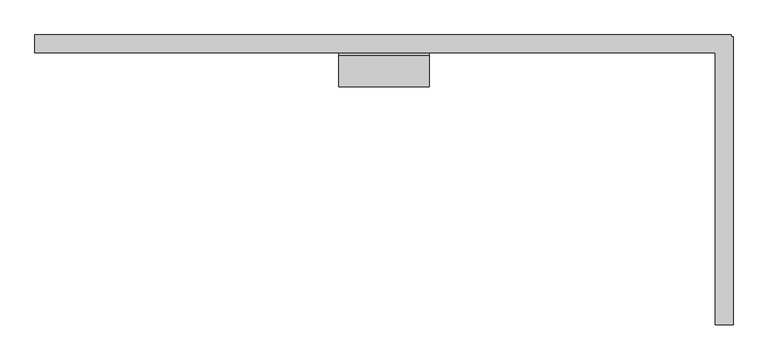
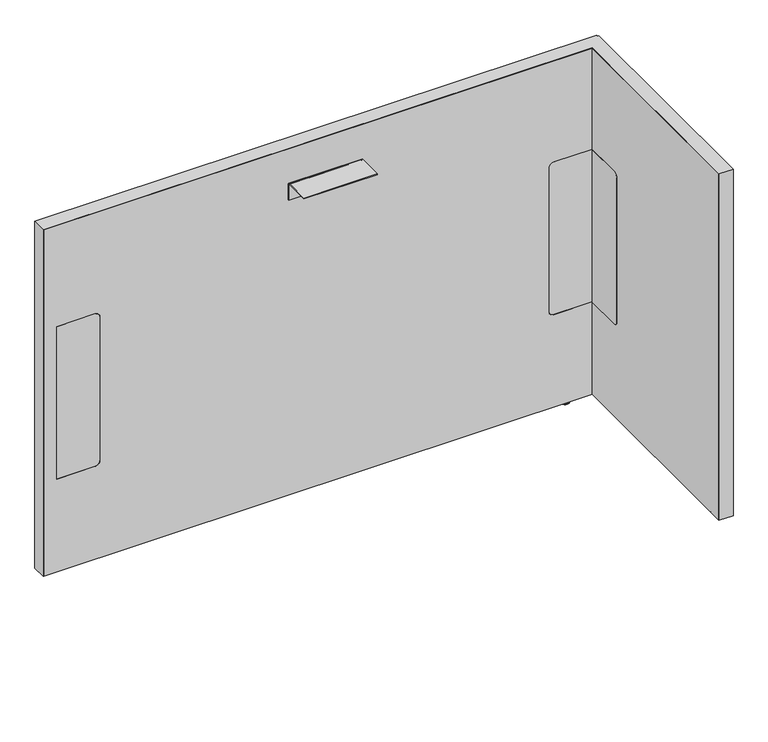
"""IFC4 building model written with IfcOpenShell, lengths in millimetres: furniture geometry, Steelcase - Answer Solution - Boundary Screen - L Return - Single Sided : 30H x 45W."""

from ifc_helpers import new_model, si_unit, point, frame, frame_2d, origin, place, context, project, spatial, polyline, circle_curve, ellipse_curve, trimmed, segment, composite_curve, outline, extrude, faceted_brep, source, transform, mapped, element, save
from ifc_brep_helpers import plane_surface, cylinder_surface, revolved_surface, advanced_brep


def furniture_faa6aa85(model_context):
    return source(origin(), model_context, "Body", "SolidModel", [
        extrude(outline(composite_curve([segment(polyline([(-109.3501471, 549.6162029), (-29.0550397, 549.6162029), (-29.0550397, 213.7762137), (-109.3501471, 213.7762137)]), True, "CONTINUOUS"), segment(trimmed(circle_curve(frame_2d((-109.3501471, 223.9362137)), 10.16), [point((-109.3501471, 213.7762137))], [point((-119.5101471, 223.9362137))], False, "CARTESIAN"), True, "CONTINUOUS"), segment(polyline([(-119.5101471, 223.9362137), (-119.5101471, 539.4562029)]), True, "CONTINUOUS"), segment(trimmed(circle_curve(frame_2d((-109.3501471, 539.4562029)), 10.16), [point((-119.5101471, 539.4562029))], [point((-109.3501471, 549.6162029))], False, "CARTESIAN"), True, "CONTINUOUS")], self_intersect=False)), frame((1372.8191891, 0.0, 0.0), z_axis=(1.0, 0.0, 0.0), x_axis=(0.0, 1.0, 0.0)), (0.0, 0.0, 1.0), 0.6401544),
        advanced_brep(
        [(1387.6672074, -448.0136072, 0.0), (1394.6216144, -448.0136072, 0.0), (1380.7128003, -448.0136072, 0.0), (1396.0762685, -448.0136072, 1.2700001), (1379.2581463, -448.0136072, 1.2700001), (1396.0762685, -448.0136072, 2.9673238), (1379.2581463, -448.0136072, 2.9673238), (1397.0427877, -448.0136072, 2.9673238), (1378.291627, -448.0136072, 2.9673238), (1397.0427877, -448.0136072, 9.9059849), (1378.291627, -448.0136072, 9.9059849), (1387.6672074, -448.0136072, 9.9059849)],
        [
            (0, 1),
            (1, 2, circle_curve(frame((1387.6672074, -448.0136072, 0.0), z_axis=(0.0, 0.0, -1.0), x_axis=(1.0, 0.0, 0.0)), 6.9544071)),
            (2, 0),
            (2, 1, circle_curve(frame((1387.6672074, -448.0136072, 0.0), z_axis=(0.0, 0.0, -1.0), x_axis=(1.0, 0.0, 0.0)), 6.9544071)),
            (1, 3, circle_curve(frame((1394.7945484, -448.0136072, 1.2700001), z_axis=(0.0, -1.0, 0.0), x_axis=(0.0, 0.0, 1.0)), 1.2817201)),
            (3, 4, circle_curve(frame((1387.6672074, -448.0136072, 1.2700001), z_axis=(0.0, 0.0, -1.0), x_axis=(1.0, 0.0, 0.0)), 8.4090611)),
            (4, 2, circle_curve(frame((1380.5398663, -448.0136072, 1.2700001), z_axis=(0.0, -1.0, 0.0), x_axis=(0.0, 0.0, 1.0)), 1.2817201)),
            (4, 3, circle_curve(frame((1387.6672074, -448.0136072, 1.2700001), z_axis=(0.0, 0.0, -1.0), x_axis=(1.0, 0.0, 0.0)), 8.4090611)),
            (3, 5),
            (5, 6, circle_curve(frame((1387.6672074, -448.0136072, 2.9673238), z_axis=(0.0, 0.0, -1.0), x_axis=(1.0, 0.0, 0.0)), 8.4090611)),
            (6, 4),
            (6, 5, circle_curve(frame((1387.6672074, -448.0136072, 2.9673238), z_axis=(0.0, 0.0, -1.0), x_axis=(1.0, 0.0, 0.0)), 8.4090611)),
            (5, 7),
            (7, 8, circle_curve(frame((1387.6672074, -448.0136072, 2.9673238), z_axis=(0.0, 0.0, -1.0), x_axis=(1.0, 0.0, 0.0)), 9.3755804)),
            (8, 6),
            (8, 7, circle_curve(frame((1387.6672074, -448.0136072, 2.9673238), z_axis=(0.0, 0.0, -1.0), x_axis=(1.0, 0.0, 0.0)), 9.3755804)),
            (7, 9),
            (9, 10, circle_curve(frame((1387.6672074, -448.0136072, 9.9059849), z_axis=(0.0, 0.0, -1.0), x_axis=(1.0, 0.0, 0.0)), 9.3755804)),
            (10, 8),
            (10, 9, circle_curve(frame((1387.6672074, -448.0136072, 9.9059849), z_axis=(0.0, 0.0, -1.0), x_axis=(1.0, 0.0, 0.0)), 9.3755804)),
            (9, 11),
            (11, 10),
        ],
        [
            plane_surface(frame((1387.6672074, -448.0136072, 0.0), z_axis=(0.0, 0.0, -1.0), x_axis=(1.0, 0.0, 0.0))),
            revolved_surface(trimmed(ellipse_curve(frame((1394.7945484, -448.0136072, 1.2700001), z_axis=(0.0, 1.0, 0.0), x_axis=(0.0, 0.0, 1.0)), 1.2817201, 1.2817201), [point((1396.0762685, -448.0136072, 1.2700001))], [point((1394.6216144, -448.0136072, 0.0))], True, "CARTESIAN"), (1387.6672074, -448.0136072, 9.9059849), (0.0, 0.0, -1.0)),
            cylinder_surface(frame((1387.6672074, -448.0136072, 9.9059849), z_axis=(0.0, 0.0, -1.0), x_axis=(1.0, 0.0, 0.0)), 8.4090611),
            plane_surface(frame((1387.6672074, -448.0136072, 2.9673238), z_axis=(0.0, 0.0, -1.0), x_axis=(1.0, 0.0, 0.0))),
            cylinder_surface(frame((1387.6672074, -448.0136072, 9.9059849), z_axis=(0.0, 0.0, -1.0), x_axis=(1.0, 0.0, 0.0)), 9.3755804),
            plane_surface(frame((1387.6672074, -448.0136072, 9.9059849), z_axis=(0.0, 0.0, 1.0), x_axis=(1.0, 0.0, 0.0))),
        ],
        [
            (0, [[1, 2, 3]]),
            (0, [[-3, 4, -1]]),
            (1, [[-2, 5, 6, 7]]),
            (1, [[-4, -7, 8, -5]]),
            (2, [[-6, 9, 10, 11]]),
            (2, [[-8, -11, 12, -9]]),
            (3, [[-10, 13, 14, 15]]),
            (3, [[-12, -15, 16, -13]]),
            (4, [[-14, 17, 18, 19]]),
            (4, [[-16, -19, 20, -17]]),
            (5, [[-18, 21, 22]]),
            (5, [[-20, -22, -21]]),
        ],
    ),
        faceted_brep([(1399.2531179, 0.0, 772.922), (1399.2531179, 0.0, 9.9059849), (1398.2621491, 0.0, 9.9059849), (1398.2621491, 0.0, 771.942118), (230.8097779, 0.0, 771.942118), (230.8097779, 0.0, 9.9059849), (229.8191891, 0.0, 9.9059849), (229.8191891, 0.0, 772.922), (229.8191891, -29.6898332, 772.922), (229.8191891, -29.6898332, 9.9059849), (230.8097779, -29.6898332, 9.9059849), (230.8097779, -29.6898332, 771.942118), (1372.8191891, -29.6898332, 771.942118), (1372.8191891, -29.6898332, 772.922), (1398.2621491, -29.6898332, 771.942118), (1398.2621491, -29.6898332, 9.9059849), (1399.2531179, -29.6898332, 9.9059849), (1399.2531179, -29.6898332, 771.942118), (1399.2531179, -3.2625916, 772.922), (1399.2531179, -3.2625916, 9.9059849), (1399.2531179, -4.252647, 9.9059849), (1399.2531179, -4.252647, 771.942118), (1402.5152256, -3.2625916, 9.9059849), (1402.5152256, -4.252647, 9.9059849), (1398.2621491, -4.252647, 9.9059849), (1372.8191891, -4.252647, 9.9059849), (1372.8191891, -3.2625916, 9.9059849), (1398.2621491, -3.2625916, 9.9059849), (1372.8191891, -486.8898332, 772.922), (1402.5152256, -486.8898332, 772.922), (1402.5152256, -3.2625916, 772.922), (1398.2621491, -3.2625916, 771.942118), (1398.2621491, -4.252647, 771.942118), (1372.8191891, -3.2625916, 771.942118), (1372.8191891, -4.252647, 771.942118), (1402.5152256, -4.252647, 771.942118), (1402.5152256, -485.899196, 771.942118), (1372.8191891, -485.899196, 771.942118), (1372.8191891, -485.899196, 9.9059849), (1372.8191891, -486.8898332, 9.9059849), (1402.5152256, -486.8898332, 9.9059849), (1402.5152256, -485.899196, 9.9059849)], [[[0, 1, 2, 3, 4, 5, 6, 7]], [[8, 9, 10, 11, 12, 13]], [[14, 15, 16, 17]], [[1, 0, 18, 19]], [[17, 16, 20, 21]], [[2, 1, 19, 22, 23, 20, 16, 15, 24, 25, 26, 27]], [[7, 6, 9, 8]], [[0, 7, 8, 13, 28, 29, 30, 18]], [[3, 2, 27, 31]], [[15, 14, 32, 24]], [[4, 3, 31, 33, 34, 32, 14, 17, 21, 35, 36, 37, 12, 11]], [[5, 4, 11, 10]], [[6, 5, 10, 9]], [[26, 25, 34, 33]], [[37, 38, 39, 28, 13, 12]], [[29, 40, 41, 36, 35, 23, 22, 30]], [[27, 26, 33, 31]], [[30, 22, 19, 18]], [[34, 25, 24, 32]], [[23, 35, 21, 20]], [[38, 37, 36, 41]], [[39, 38, 41, 40]], [[28, 39, 40, 29]]]),
        extrude(outline(composite_curve([segment(polyline([(-86.8398151, 696.4680019), (-86.8398151, 698.5), (-34.9450855, 698.5)]), True, "CONTINUOUS"), segment(trimmed(circle_curve(frame_2d((-34.9450855, 693.2447477)), 5.2552523), [point((-34.9450855, 698.5))], [point((-29.6898332, 693.2447477))], False, "CARTESIAN"), True, "CONTINUOUS"), segment(polyline([(-29.6898332, 693.2447477), (-29.6898332, 660.4), (-31.7218162, 660.4), (-31.7218162, 693.0058743)]), True, "CONTINUOUS"), segment(trimmed(circle_curve(frame_2d((-35.1839438, 693.0058743)), 3.4621276), [point((-31.7218162, 693.0058743))], [point((-35.1839438, 696.4680019))], True, "CARTESIAN"), True, "CONTINUOUS"), segment(polyline([(-35.1839438, 696.4680019), (-86.8398151, 696.4680019)]), True, "CONTINUOUS")], self_intersect=False)), frame((739.9685899, 0.0, 0.0), z_axis=(1.0, 0.0, 0.0), x_axis=(0.0, 1.0, 0.0)), (0.0, 0.0, 1.0), 152.4000969),
        advanced_brep(
        [(1325.3246853, -23.7588726, 9.9059849), (1325.3246853, -5.9309607, 9.9059849), (1325.3246853, -14.8449166, 9.9059849), (1325.3246853, -23.7588726, 2.9673238), (1325.3246853, -5.9309607, 2.9673238), (1325.3246853, -22.7915354, 2.9673238), (1325.3246853, -6.8982978, 2.9673238), (1325.3246853, -22.7915354, 1.6569081), (1325.3246853, -6.8982978, 1.6569081), (1325.3246853, -21.1346274, 0.0), (1325.3246853, -8.5552059, 0.0), (1325.3246853, -14.8449166, 0.0)],
        [
            (0, 1, circle_curve(frame((1325.3246853, -14.8449166, 9.9059849), z_axis=(0.0, 0.0, 1.0), x_axis=(0.0, 1.0, 0.0)), 8.913956)),
            (1, 2),
            (2, 0),
            (1, 0, circle_curve(frame((1325.3246853, -14.8449166, 9.9059849), z_axis=(0.0, 0.0, 1.0), x_axis=(0.0, 1.0, 0.0)), 8.913956)),
            (3, 4, circle_curve(frame((1325.3246853, -14.8449166, 2.9673238), z_axis=(0.0, 0.0, 1.0), x_axis=(0.0, 1.0, 0.0)), 8.913956)),
            (4, 1),
            (0, 3),
            (4, 3, circle_curve(frame((1325.3246853, -14.8449166, 2.9673238), z_axis=(0.0, 0.0, 1.0), x_axis=(0.0, 1.0, 0.0)), 8.913956)),
            (5, 6, circle_curve(frame((1325.3246853, -14.8449166, 2.9673238), z_axis=(0.0, 0.0, 1.0), x_axis=(0.0, 1.0, 0.0)), 7.9466188)),
            (6, 4),
            (3, 5),
            (6, 5, circle_curve(frame((1325.3246853, -14.8449166, 2.9673238), z_axis=(0.0, 0.0, 1.0), x_axis=(0.0, 1.0, 0.0)), 7.9466188)),
            (7, 8, circle_curve(frame((1325.3246853, -14.8449166, 1.6569081), z_axis=(0.0, 0.0, 1.0), x_axis=(0.0, 1.0, 0.0)), 7.9466188)),
            (8, 6),
            (5, 7),
            (8, 7, circle_curve(frame((1325.3246853, -14.8449166, 1.6569081), z_axis=(0.0, 0.0, 1.0), x_axis=(0.0, 1.0, 0.0)), 7.9466188)),
            (9, 10, circle_curve(frame((1325.3246853, -14.8449166, 0.0), z_axis=(0.0, 0.0, 1.0), x_axis=(0.0, 1.0, 0.0)), 6.2897107)),
            (10, 8, circle_curve(frame((1325.3246853, -8.5552059, 1.6569081), z_axis=(1.0, 0.0, 0.0), x_axis=(0.0, 1.0, 0.0)), 1.6569081)),
            (7, 9, circle_curve(frame((1325.3246853, -21.1346274, 1.6569081), z_axis=(1.0, 0.0, 0.0), x_axis=(0.0, -1.0, 0.0)), 1.6569081)),
            (10, 9, circle_curve(frame((1325.3246853, -14.8449166, 0.0), z_axis=(0.0, 0.0, 1.0), x_axis=(0.0, 1.0, 0.0)), 6.2897107)),
            (11, 10),
            (9, 11),
        ],
        [
            plane_surface(frame((1325.3246853, -14.8449166, 9.9059849), z_axis=(0.0, 0.0, 1.0), x_axis=(0.0, 1.0, 0.0))),
            cylinder_surface(frame((1325.3246853, -14.8449166, 9.9059849), z_axis=(0.0, 0.0, -1.0), x_axis=(0.0, 1.0, 0.0)), 8.913956),
            plane_surface(frame((1325.3246853, -14.8449166, 2.9673238), z_axis=(0.0, 0.0, -1.0), x_axis=(0.0, 1.0, 0.0))),
            cylinder_surface(frame((1325.3246853, -14.8449166, 9.9059849), z_axis=(0.0, 0.0, -1.0), x_axis=(0.0, 1.0, 0.0)), 7.9466188),
            revolved_surface(trimmed(ellipse_curve(frame((1325.3246853, -8.5552059, 1.6569081), z_axis=(-1.0, 0.0, 0.0), x_axis=(0.0, 1.0, 0.0)), 1.6569081, 1.6569081), [point((1325.3246853, -6.8982978, 1.6569081))], [point((1325.3246853, -8.5552059, 0.0))], True, "CARTESIAN"), (1325.3246853, -14.8449166, 9.9059849), (0.0, 0.0, -1.0)),
            plane_surface(frame((1325.3246853, -14.8449166, 0.0), z_axis=(0.0, 0.0, -1.0), x_axis=(0.0, 1.0, 0.0))),
        ],
        [
            (0, [[1, 2, 3]]),
            (0, [[4, -3, -2]]),
            (1, [[5, 6, -1, 7]]),
            (1, [[8, -7, -4, -6]]),
            (2, [[9, 10, -5, 11]]),
            (2, [[12, -11, -8, -10]]),
            (3, [[13, 14, -9, 15]]),
            (3, [[16, -15, -12, -14]]),
            (4, [[17, 18, -13, 19]]),
            (4, [[20, -19, -16, -18]]),
            (5, [[21, -17, 22]]),
            (5, [[-22, -20, -21]]),
        ],
    ),
        advanced_brep(
        [(230.8097779, 0.0, 771.942118), (1398.2621491, 0.0, 771.942118), (1398.2621491, 0.0, 9.9059849), (230.8097779, 0.0, 9.9059849), (347.9483813, -29.0550397, 539.4562029), (337.7883813, -29.0550397, 549.6162029), (258.1344836, -29.0550397, 549.6162029), (258.1344836, -29.0550397, 213.7762137), (337.7883813, -29.0550397, 213.7762137), (347.9483813, -29.0550397, 223.9362137), (1373.4593435, -29.0550397, 213.7762137), (1373.4593435, -29.0550397, 549.6162029), (1292.9109268, -29.0550397, 549.6162029), (1282.7509268, -29.0550397, 539.4562029), (1282.7509268, -29.0550397, 223.9362137), (1292.9109268, -29.0550397, 213.7762137), (230.8097779, -29.6898332, 771.942118), (230.8097779, -29.6898332, 9.9059849), (1372.8191891, -29.6898332, 9.9059849), (1372.8191891, -29.6898332, 213.7762137), (1292.9109268, -29.6898332, 213.7762137), (1282.7509268, -29.6898332, 223.9362137), (1282.7509268, -29.6898332, 539.4562029), (1292.9109268, -29.6898332, 549.6162029), (1372.8191891, -29.6898332, 549.6162029), (1372.8191891, -29.6898332, 771.942118), (337.7883813, -29.6898332, 549.6162029), (347.9483813, -29.6898332, 539.4562029), (347.9483813, -29.6898332, 223.9362137), (337.7883813, -29.6898332, 213.7762137), (258.1344836, -29.6898332, 213.7762137), (258.1344836, -29.6898332, 549.6162029), (1398.2621491, -4.252647, 9.9059849), (1402.5152256, -4.252647, 9.9059849), (1402.5152256, -485.899196, 9.9059849), (1372.8191891, -485.899196, 9.9059849), (1398.2621491, -4.252647, 771.942118), (1372.8191891, -485.899196, 771.942118), (1402.5152256, -485.899196, 771.942118), (1402.5152256, -4.252647, 771.942118), (1373.4593435, -109.3501471, 549.6162029), (1372.8191891, -109.3501471, 549.6162029), (1373.4593435, -109.3501471, 213.7762137), (1373.4593435, -119.5101471, 223.9362137), (1373.4593435, -119.5101471, 539.4562029), (1372.8191891, -109.3501471, 213.7762137), (1372.8191891, -119.5101471, 539.4562029), (1372.8191891, -119.5101471, 223.9362137)],
        [
            (0, 1),
            (1, 2),
            (2, 3),
            (3, 0),
            (4, 5, circle_curve(frame((337.7883813, -29.0550397, 539.4562029), z_axis=(0.0, -1.0, 0.0), x_axis=(0.0, 0.0, 1.0)), 10.16)),
            (5, 6),
            (6, 7),
            (7, 8),
            (8, 9, circle_curve(frame((337.7883813, -29.0550397, 223.9362137), z_axis=(0.0, -1.0, 0.0), x_axis=(0.0, 0.0, 1.0)), 10.16)),
            (9, 4),
            (10, 11),
            (11, 12),
            (12, 13, circle_curve(frame((1292.9109268, -29.0550397, 539.4562029), z_axis=(0.0, -1.0, 0.0), x_axis=(0.0, 0.0, 1.0)), 10.16)),
            (13, 14),
            (14, 15, circle_curve(frame((1292.9109268, -29.0550397, 223.9362137), z_axis=(0.0, -1.0, 0.0), x_axis=(0.0, 0.0, 1.0)), 10.16)),
            (15, 10),
            (16, 17),
            (17, 18),
            (18, 19),
            (19, 20),
            (20, 21, circle_curve(frame((1292.9109268, -29.6898332, 223.9362137), z_axis=(0.0, 1.0, 0.0), x_axis=(0.0, 0.0, 1.0)), 10.16)),
            (21, 22),
            (22, 23, circle_curve(frame((1292.9109268, -29.6898332, 539.4562029), z_axis=(0.0, 1.0, 0.0), x_axis=(0.0, 0.0, 1.0)), 10.16)),
            (23, 24),
            (24, 25),
            (25, 16),
            (26, 27, circle_curve(frame((337.7883813, -29.6898332, 539.4562029), z_axis=(0.0, 1.0, 0.0), x_axis=(0.0, 0.0, 1.0)), 10.16)),
            (27, 28),
            (28, 29, circle_curve(frame((337.7883813, -29.6898332, 223.9362137), z_axis=(0.0, 1.0, 0.0), x_axis=(0.0, 0.0, 1.0)), 10.16)),
            (29, 30),
            (30, 31),
            (31, 26),
            (16, 0),
            (3, 17),
            (2, 32),
            (32, 33),
            (33, 34),
            (34, 35),
            (35, 18),
            (1, 36),
            (36, 32),
            (25, 37),
            (37, 38),
            (38, 39),
            (39, 36),
            (26, 5),
            (4, 27),
            (9, 28),
            (8, 29),
            (7, 30),
            (6, 31),
            (11, 40),
            (40, 41),
            (41, 24),
            (23, 12),
            (42, 43, circle_curve(frame((1373.4593435, -109.3501471, 223.9362137), z_axis=(-1.0, 0.0, 0.0), x_axis=(0.0, 1.0, 0.0)), 10.16)),
            (43, 44),
            (44, 40, circle_curve(frame((1373.4593435, -109.3501471, 539.4562029), z_axis=(-1.0, 0.0, 0.0), x_axis=(0.0, 1.0, 0.0)), 10.16)),
            (10, 42),
            (15, 20),
            (19, 45),
            (45, 42),
            (14, 21),
            (13, 22),
            (35, 37),
            (41, 46, circle_curve(frame((1372.8191891, -109.3501471, 539.4562029), z_axis=(1.0, 0.0, 0.0), x_axis=(0.0, 1.0, 0.0)), 10.16)),
            (46, 47),
            (47, 45, circle_curve(frame((1372.8191891, -109.3501471, 223.9362137), z_axis=(1.0, 0.0, 0.0), x_axis=(0.0, 1.0, 0.0)), 10.16)),
            (38, 34),
            (33, 39),
            (44, 46),
            (43, 47),
        ],
        [
            plane_surface(frame((347.9483813, 0.0, 549.6162029), z_axis=(0.0, 1.0, 0.0), x_axis=(0.0, 0.0, -1.0))),
            plane_surface(frame((347.9483813, -29.0550397, 549.6162029), z_axis=(0.0, -1.0, 0.0), x_axis=(0.0, 0.0, 1.0))),
            plane_surface(frame((1398.2621491, -29.6898332, 771.942118), z_axis=(0.0, -1.0, 0.0), x_axis=(-1.0, 0.0, 0.0))),
            plane_surface(frame((230.8097779, 0.0, 9.9059849), z_axis=(-1.0, 0.0, 0.0), x_axis=(0.0, -1.0, 0.0))),
            plane_surface(frame((1398.2621491, 0.0, 9.9059849), z_axis=(0.0, 0.0, -1.0), x_axis=(0.0, -1.0, 0.0))),
            plane_surface(frame((1398.2621491, 0.0, 771.942118), z_axis=(1.0, 0.0, 0.0), x_axis=(0.0, -1.0, 0.0))),
            plane_surface(frame((230.8097779, 0.0, 771.942118), z_axis=(0.0, 0.0, 1.0), x_axis=(0.0, -1.0, 0.0))),
            revolved_surface(polyline([(337.7883813, -29.6898332, 549.6162029), (337.7883813, -29.0550397, 549.6162029)]), (337.7883813, -29.6898332, 539.4562029), (0.0, -1.0, 0.0)),
            plane_surface(frame((347.9483813, 0.0, 223.9362137), z_axis=(-1.0, 0.0, 0.0), x_axis=(0.0, -1.0, 0.0))),
            revolved_surface(polyline([(337.7883813, -29.6898332, 234.0962137), (337.7883813, -29.0550397, 234.0962137)]), (337.7883813, -29.6898332, 223.9362137), (0.0, -1.0, 0.0)),
            plane_surface(frame((258.1344836, 0.0, 213.7762137), z_axis=(0.0, 0.0, 1.0), x_axis=(0.0, -1.0, 0.0))),
            plane_surface(frame((258.1344836, 0.0, 549.6162029), z_axis=(1.0, 0.0, 0.0), x_axis=(0.0, -1.0, 0.0))),
            plane_surface(frame((337.7883813, 0.0, 549.6162029), z_axis=(0.0, 0.0, -1.0), x_axis=(0.0, -1.0, 0.0))),
            plane_surface(frame((1373.4593435, 0.0, 549.6162029), z_axis=(0.0, 0.0, -1.0), x_axis=(0.0, -1.0, 0.0))),
            plane_surface(frame((1373.4593435, 0.0, 213.7762137), z_axis=(-1.0, 0.0, 0.0), x_axis=(0.0, -1.0, 0.0))),
            plane_surface(frame((1292.9109268, 0.0, 213.7762137), z_axis=(0.0, 0.0, 1.0), x_axis=(0.0, -1.0, 0.0))),
            revolved_surface(polyline([(1292.9109268, -29.6898332, 234.0962137), (1292.9109268, -29.0550397, 234.0962137)]), (1292.9109268, -29.6898332, 223.9362137), (0.0, -1.0, 0.0)),
            plane_surface(frame((1282.7509268, 0.0, 539.4562029), z_axis=(1.0, 0.0, 0.0), x_axis=(0.0, -1.0, 0.0))),
            revolved_surface(polyline([(1292.9109268, -29.6898332, 549.6162029), (1292.9109268, -29.0550397, 549.6162029)]), (1292.9109268, -29.6898332, 539.4562029), (0.0, -1.0, 0.0)),
            plane_surface(frame((1372.8191891, -485.899196, 771.942118), z_axis=(-1.0, 0.0, 0.0), x_axis=(0.0, 0.0, 1.0))),
            plane_surface(frame((1402.5152256, -485.899196, 771.942118), z_axis=(1.0, 0.0, 0.0), x_axis=(0.0, 0.0, -1.0))),
            plane_surface(frame((1402.5152256, -4.252647, 9.9059849), z_axis=(0.0, 1.0, 0.0), x_axis=(-1.0, 0.0, 0.0))),
            plane_surface(frame((1402.5152256, -485.899196, 771.942118), z_axis=(0.0, -1.0, 0.0), x_axis=(-1.0, 0.0, 0.0))),
            revolved_surface(polyline([(1372.8191891, -99.1901471, 539.4562029), (1373.4593435, -99.1901471, 539.4562029)]), (-340.6902705, -109.3501471, 539.4562029), (-1.0, 0.0, 0.0)),
            plane_surface(frame((1402.5152256, -119.5101471, 223.9362137), z_axis=(0.0, 1.0, 0.0), x_axis=(-1.0, 0.0, 0.0))),
            revolved_surface(polyline([(1372.8191891, -99.1901471, 223.9362137), (1373.4593435, -99.1901471, 223.9362137)]), (-340.6902705, -109.3501471, 223.9362137), (-1.0, 0.0, 0.0)),
        ],
        [
            (0, [[1, 2, 3, 4]]),
            (1, [[5, 6, 7, 8, 9, 10]]),
            (1, [[11, 12, 13, 14, 15, 16]]),
            (2, [[17, 18, 19, 20, 21, 22, 23, 24, 25, 26], [27, 28, 29, 30, 31, 32]]),
            (3, [[-17, 33, -4, 34]]),
            (4, [[-3, 35, 36, 37, 38, 39, -18, -34]]),
            (5, [[-2, 40, 41, -35]]),
            (6, [[-1, -33, -26, 42, 43, 44, 45, -40]]),
            (7, [[-27, 46, -5, 47]]),
            (8, [[-28, -47, -10, 48]]),
            (9, [[-29, -48, -9, 49]]),
            (10, [[-30, -49, -8, 50]]),
            (11, [[-31, -50, -7, 51]]),
            (12, [[-32, -51, -6, -46]]),
            (13, [[52, 53, 54, -24, 55, -12]]),
            (14, [[56, 57, 58, -52, -11, 59]]),
            (15, [[-59, -16, 60, -20, 61, 62]]),
            (16, [[-21, -60, -15, 63]]),
            (17, [[-22, -63, -14, 64]]),
            (18, [[-23, -64, -13, -55]]),
            (19, [[65, -42, -25, -54, 66, 67, 68, -61, -19, -39]]),
            (20, [[69, -37, 70, -44]]),
            (21, [[-70, -36, -41, -45]]),
            (22, [[-65, -38, -69, -43]]),
            (23, [[-66, -53, -58, 71]]),
            (24, [[-67, -71, -57, 72]]),
            (25, [[-68, -72, -56, -62]]),
        ],
    ),
        extrude(outline(composite_curve([segment(polyline([(549.6162029, 337.7883813), (549.6162029, 258.1344836), (213.7762137, 258.1344836), (213.7762137, 337.7883813)]), True, "CONTINUOUS"), segment(trimmed(circle_curve(frame_2d((223.9362137, 337.7883813)), 10.16), [point((213.7762137, 337.7883813))], [point((223.9362137, 347.9483813))], False, "CARTESIAN"), True, "CONTINUOUS"), segment(polyline([(223.9362137, 347.9483813), (539.4562029, 347.9483813)]), True, "CONTINUOUS"), segment(trimmed(circle_curve(frame_2d((539.4562029, 337.7883813)), 10.16), [point((539.4562029, 347.9483813))], [point((549.6162029, 337.7883813))], False, "CARTESIAN"), True, "CONTINUOUS")], self_intersect=False)), frame((0.0, -29.6898332, 0.0), z_axis=(0.0, 1.0, 0.0), x_axis=(0.0, 0.0, 1.0)), (0.0, 0.0, 1.0), 0.6347935),
        extrude(outline(composite_curve([segment(trimmed(circle_curve(frame_2d((539.4562029, 1292.9109268)), 10.16), [point((549.6162029, 1292.9109268))], [point((539.4562029, 1282.7509268))], False, "CARTESIAN"), True, "CONTINUOUS"), segment(polyline([(539.4562029, 1282.7509268), (223.9362137, 1282.7509268)]), True, "CONTINUOUS"), segment(trimmed(circle_curve(frame_2d((223.9362137, 1292.9109268)), 10.16), [point((223.9362137, 1282.7509268))], [point((213.7762137, 1292.9109268))], False, "CARTESIAN"), True, "CONTINUOUS"), segment(polyline([(213.7762137, 1292.9109268), (213.7762137, 1372.8191891), (549.6162029, 1372.8191891), (549.6162029, 1292.9109268)]), True, "CONTINUOUS")], self_intersect=False)), frame((0.0, -29.6898332, 0.0), z_axis=(0.0, 1.0, 0.0), x_axis=(0.0, 0.0, 1.0)), (0.0, 0.0, 1.0), 0.6347935),
    ])


if __name__ == "__main__":
    model = new_model("IFC4")
    model_context = context("Model", 3, world=origin())
    ifc_project = project(units=[si_unit("LENGTHUNIT", "METRE", prefix="MILLI")], contexts=[model_context])
    site = spatial("IfcSite", under=ifc_project)
    building = spatial("IfcBuilding", under=site)
    placement = place(None, origin())
    furniture_shape = furniture_faa6aa85(model_context)
    element("IfcFurniture", 1, ObjectType="Steelcase - Answer Solution - Boundary Screen - L Return - Single Sided : 30H x 45W", at=placement, inside=building, context=model_context, shape_type="MappedRepresentation", body=[
        mapped(furniture_shape, transform((0.0, 0.0, 0.0), x_axis=(1.0, 0.0, 0.0), y_axis=(0.0, 1.0, 0.0), z_axis=(0.0, 0.0, 1.0))),
    ])
    save(model, "model.ifc")
